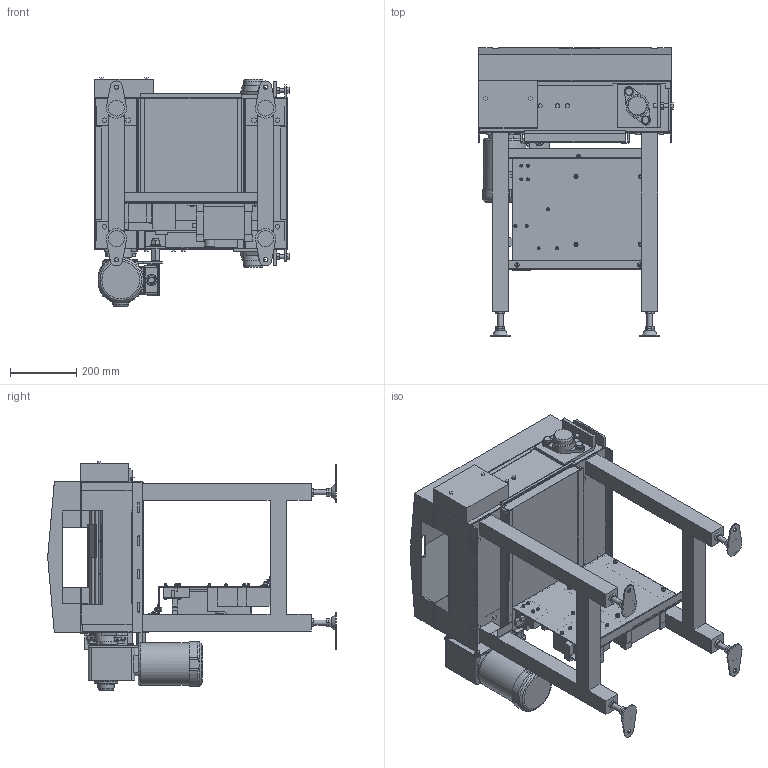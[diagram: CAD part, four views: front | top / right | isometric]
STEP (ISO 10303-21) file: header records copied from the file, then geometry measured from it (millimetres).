
FILE_DESCRIPTION( (''), '2;1');
FILE_NAME ('WEB-SLS-H-340-2-100-100-R-IVH-7.5.stp','2026-08-20T08:39:56',(''),(''),'spGate 21.9.5 (****-****-****-****)','','');
FILE_SCHEMA (('AUTOMOTIVE_DESIGN'));
Length unit declared in the file: millimetre
Products named in the file (77): WEB-SLS-H-340-2-100-100-R-IVH-7.5; TEMP_X_T-prt0; TEMP_X_T-prt1; TEMP_X_T-prt2; TEMP_X_T-prt3; TEMP_X_T-prt4; TEMP_X_T-prt5; TEMP_X_T-prt6; TEMP_X_T-prt7; TEMP_X_T-prt8; TEMP_X_T-prt9; TEMP_X_T-prt10; TEMP_X_T-prt11; TEMP_X_T-prt12; TEMP_X_T-prt13; TEMP_X_T-prt14; TEMP_X_T-prt15; TEMP_X_T-prt16; TEMP_X_T-prt17; TEMP_X_T-prt18; TEMP_X_T-prt19; TEMP_X_T-prt20; TEMP_X_T-prt21; TEMP_X_T-prt22; TEMP_X_T-prt23; TEMP_X_T-prt24; TEMP_X_T-prt25; TEMP_X_T-prt26; TEMP_X_T-prt27; TEMP_X_T-prt28; TEMP_X_T-prt29; TEMP_X_T-prt30; TEMP_X_T-prt31; TEMP_X_T-prt32; TEMP_X_T-prt33; TEMP_X_T-prt34; TEMP_X_T-prt35; TEMP_X_T-prt36; TEMP_X_T-prt37; TEMP_X_T-prt38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
Assembly tree (76 placements, depth 2):
  WEB-SLS-H-340-2-100-100-R-IVH-7.5
    TEMP_X_T-prt0
    TEMP_X_T-prt1
    TEMP_X_T-prt2
    TEMP_X_T-prt3
    TEMP_X_T-prt4
    TEMP_X_T-prt5
    TEMP_X_T-prt6
    TEMP_X_T-prt7
    TEMP_X_T-prt8
    TEMP_X_T-prt9
    TEMP_X_T-prt10
    TEMP_X_T-prt11
    TEMP_X_T-prt12
    TEMP_X_T-prt13
    TEMP_X_T-prt14
    TEMP_X_T-prt15
    TEMP_X_T-prt16
    TEMP_X_T-prt17
    TEMP_X_T-prt18
    TEMP_X_T-prt19
    TEMP_X_T-prt20
    TEMP_X_T-prt21
    TEMP_X_T-prt22
    TEMP_X_T-prt23
    TEMP_X_T-prt24
    TEMP_X_T-prt25
    TEMP_X_T-prt26
    TEMP_X_T-prt27
    TEMP_X_T-prt28
    TEMP_X_T-prt29
    TEMP_X_T-prt30
    TEMP_X_T-prt31
    TEMP_X_T-prt32
    TEMP_X_T-prt33
    TEMP_X_T-prt34
    TEMP_X_T-prt35
    TEMP_X_T-prt36
    TEMP_X_T-prt37
    TEMP_X_T-prt38
    TEMP_X_T-prt39
    TEMP_X_T-prt40
    TEMP_X_T-prt41
    TEMP_X_T-prt42
    TEMP_X_T-prt43
    TEMP_X_T-prt44
    TEMP_X_T-prt45
    TEMP_X_T-prt46
    TEMP_X_T-prt47
    TEMP_X_T-prt48
    TEMP_X_T-prt49
    TEMP_X_T-prt50
    TEMP_X_T-prt51
    TEMP_X_T-prt52
    TEMP_X_T-prt53
    TEMP_X_T-prt54
    TEMP_X_T-prt55
    TEMP_X_T-prt56
    TEMP_X_T-prt57
    TEMP_X_T-prt58
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Bounding box: 586 x 870.6 x 689.5 mm (x, y, z)
Volume: 35159462.7 mm3; surface area: 5732639.1 mm2
Topology: 76 solids, 76 shells, 2361 faces, 6065 edges, 3985 vertices
Faces by surface type: plane 1802, cylinder 440, bspline 115, sphere 4
Full cylindrical faces by diameter (mm): 4 x14, 4.15 x1, 5 x4, 6 x14, 8 x6, 8.376 x4, 8.5 x6, 9 x4, 9.2 x5, 10.5 x4, 11 x4, 11.8 x4, 12 x2, 12.2 x18, 12.5 x21, 13 x8, 14 x8, 15.4 x1, 16 x16, 18 x1, 20 x1, 21 x6, 22.2 x1, 23 x1, 24 x1, 25 x1, 28 x1, 30 x1, 30.5 x1, 34 x1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
Entity records: 125024 total; most frequent: CARTESIAN_POINT 16348, ORIENTED_EDGE 12122, DIRECTION 11760, COLOUR_RGB 8498, PRESENTATION_STYLE_ASSIGNMENT 8498, STYLED_ITEM 8498, EDGE_CURVE 6061, DRAUGHTING_PRE_DEFINED_CURVE_FONT 6061
